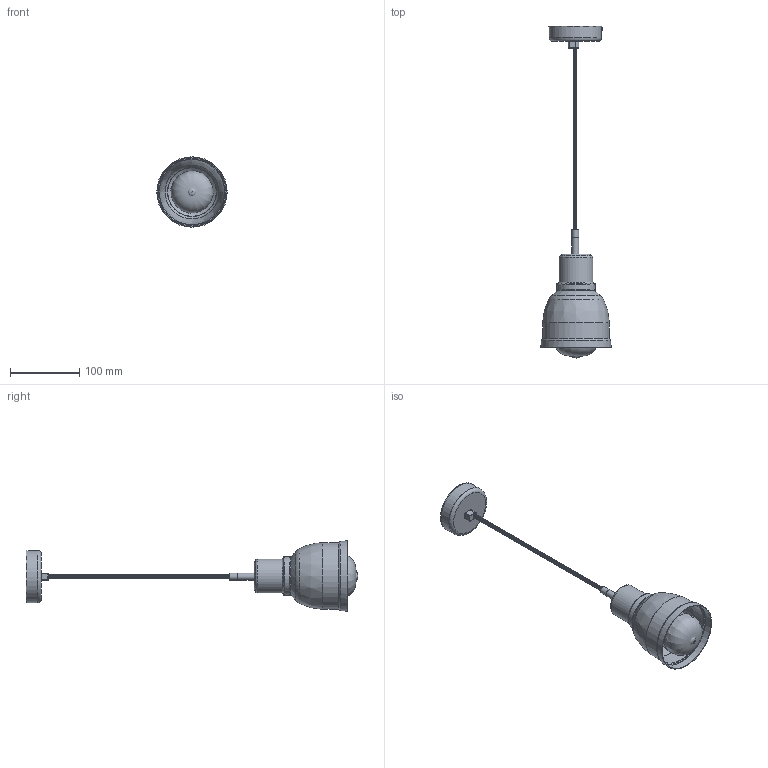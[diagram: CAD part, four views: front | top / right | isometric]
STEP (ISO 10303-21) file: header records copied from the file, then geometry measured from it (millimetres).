
FILE_DESCRIPTION(/* description */ (''),/* implementation_level */ '2;1');
FILE_NAME(/* name */ 'C:\Users\Dominika\Desktop\Modele CZARNY\PUNK\LAMPA PUNK.stp',/* time_stamp */ '2019-12-05T20:39:36+01:00',/* author */ ('Dominika'),/* organization */ (''),/* preprocessor_version */ 'ST-DEVELOPER v17',/* originating_system */ 'Autodesk Inventor 2019',/* authorisation */ '');
FILE_SCHEMA (('AUTOMOTIVE_DESIGN { 1 0 10303 214 3 1 1 }'));
Length unit declared in the file: millimetre
Products named in the file (15): LAMPA PUNK; PUNK klosz]; PUNK tulejka II; PUNK tulejka; BLUES kabel I; BLUES kabel II; lampadina-edison_MIR; filamenti_MIR; vetro-esterno_MIR; vetro-interno_MIR; vite_MIR; 1. zespol mocowania do sciany; FUNK mocowanie do sciany; FUNK mocowanie kabla; sruba
Assembly tree (312 placements, depth 3):
  LAMPA PUNK
    PUNK klosz]
    PUNK tulejka II
    PUNK tulejka
    BLUES kabel I  x150
    BLUES kabel II  x150
    lampadina-edison_MIR
      filamenti_MIR
      vetro-esterno_MIR
      vetro-interno_MIR
      vite_MIR
    1. zespol mocowania do sciany
      FUNK mocowanie do sciany
      FUNK mocowanie kabla
      sruba
Bounding box: 101.19 x 477.88 x 101.19 mm (x, y, z)
Volume: 76865.8 mm3; surface area: 148733 mm2
Topology: 313 solids, 313 shells, 1128 faces, 1475 edges, 979 vertices
Faces by surface type: plane 693, cylinder 365, torus 35, bspline 24, sphere 6, cone 5
Full cylindrical faces by diameter (mm): 0.5 x20, 0.6 x8, 1.5 x4, 2.5 x1, 2.694 x1, 4 x2, 4.694 x1, 5 x300, 6 x4, 8.792 x1, 10 x2, 10.792 x1, 24 x1, 24.015 x1, 25.6 x1, 46.441 x1, 48.441 x1, 53.81 x1, 55.81 x1, 73 x1, 75 x1, 94 x1, 96 x1
Entity records: 14598 total; most frequent: CARTESIAN_POINT 6146, DIRECTION 1872, ORIENTED_EDGE 1124, AXIS2_PLACEMENT_3D 857, EDGE_CURVE 562, VERTEX_POINT 381, PRODUCT_DEFINITION_SHAPE 327, ITEM_DEFINED_TRANSFORMATION 312
